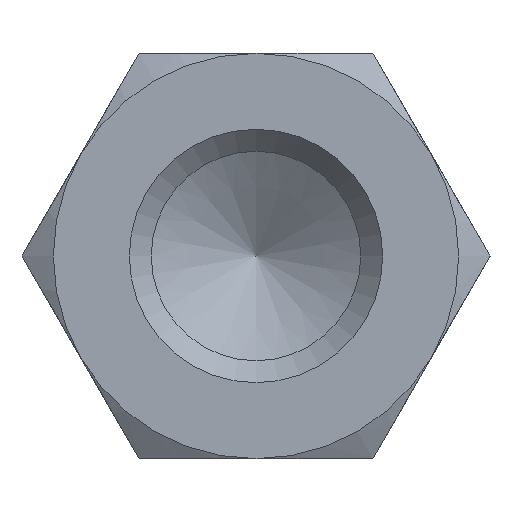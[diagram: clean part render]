
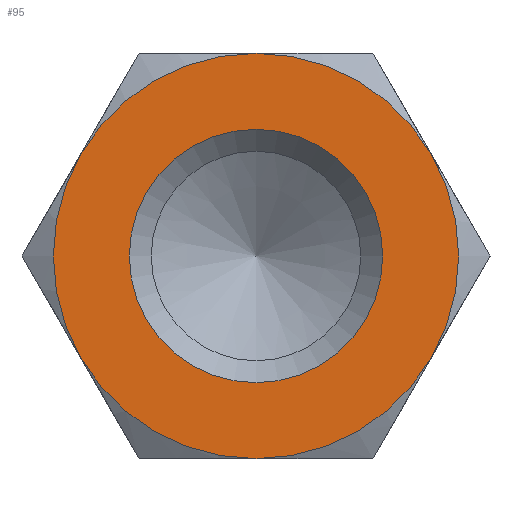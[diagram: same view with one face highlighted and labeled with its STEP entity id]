
A CAD part, left-side view. The second image highlights one B-rep face of the part: STEP entity #95.
In plain terms, the highlighted planar face has unit normal (-1, 0, 0).
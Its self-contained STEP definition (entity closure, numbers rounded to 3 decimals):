
#95 = ADVANCED_FACE( '', ( #147, #148 ), #149, .F. );
#147 = FACE_OUTER_BOUND( '', #206, .T. );
#148 = FACE_BOUND( '', #207, .T. );
#149 = PLANE( '', #208 );
#206 = EDGE_LOOP( '', ( #356, #357, #358, #359, #360, #361 ) );
#207 = EDGE_LOOP( '', ( #362 ) );
#208 = AXIS2_PLACEMENT_3D( '', #363, #364, #365 );
#356 = ORIENTED_EDGE( '', *, *, #440, .F. );
#357 = ORIENTED_EDGE( '', *, *, #425, .F. );
#358 = ORIENTED_EDGE( '', *, *, #441, .F. );
#359 = ORIENTED_EDGE( '', *, *, #437, .F. );
#360 = ORIENTED_EDGE( '', *, *, #442, .F. );
#361 = ORIENTED_EDGE( '', *, *, #443, .F. );
#362 = ORIENTED_EDGE( '', *, *, #439, .T. );
#363 = CARTESIAN_POINT( '', ( -50., 0., 0. ) );
#364 = DIRECTION( '', ( 1., 0., 0. ) );
#365 = DIRECTION( '', ( 0., 0., -1. ) );
#425 = EDGE_CURVE( '', #495, #493, #497, .T. );
#437 = EDGE_CURVE( '', #447, #506, #513, .T. );
#439 = EDGE_CURVE( '', #516, #516, #517, .T. );
#440 = EDGE_CURVE( '', #493, #486, #518, .T. );
#441 = EDGE_CURVE( '', #506, #495, #519, .T. );
#442 = EDGE_CURVE( '', #481, #447, #520, .T. );
#443 = EDGE_CURVE( '', #486, #481, #521, .T. );
#447 = VERTEX_POINT( '', #525 );
#481 = VERTEX_POINT( '', #595 );
#486 = VERTEX_POINT( '', #611 );
#493 = VERTEX_POINT( '', #632 );
#495 = VERTEX_POINT( '', #637 );
#497 = CIRCLE( '', #644, 4. );
#506 = VERTEX_POINT( '', #670 );
#513 = CIRCLE( '', #701, 4. );
#516 = VERTEX_POINT( '', #704 );
#517 = CIRCLE( '', #705, 2.5 );
#518 = CIRCLE( '', #706, 4. );
#519 = CIRCLE( '', #707, 4. );
#520 = CIRCLE( '', #708, 4. );
#521 = CIRCLE( '', #709, 4. );
#525 = CARTESIAN_POINT( '', ( -50., -3.464, 2. ) );
#595 = CARTESIAN_POINT( '', ( -50., 0., 4. ) );
#611 = CARTESIAN_POINT( '', ( -50., 3.464, 2. ) );
#632 = CARTESIAN_POINT( '', ( -50., 3.464, -2. ) );
#637 = CARTESIAN_POINT( '', ( -50., 0., -4. ) );
#644 = AXIS2_PLACEMENT_3D( '', #744, #745, #746 );
#670 = CARTESIAN_POINT( '', ( -50., -3.464, -2. ) );
#701 = AXIS2_PLACEMENT_3D( '', #749, #750, #751 );
#704 = CARTESIAN_POINT( '', ( -50., 0., -2.5 ) );
#705 = AXIS2_PLACEMENT_3D( '', #755, #756, #757 );
#706 = AXIS2_PLACEMENT_3D( '', #758, #759, #760 );
#707 = AXIS2_PLACEMENT_3D( '', #761, #762, #763 );
#708 = AXIS2_PLACEMENT_3D( '', #764, #765, #766 );
#709 = AXIS2_PLACEMENT_3D( '', #767, #768, #769 );
#744 = CARTESIAN_POINT( '', ( -50., 0., 0. ) );
#745 = DIRECTION( '', ( 1., 0., 0. ) );
#746 = DIRECTION( '', ( 0., 0., -1. ) );
#749 = CARTESIAN_POINT( '', ( -50., 0., 0. ) );
#750 = DIRECTION( '', ( 1., 0., 0. ) );
#751 = DIRECTION( '', ( 0., 0., -1. ) );
#755 = CARTESIAN_POINT( '', ( -50., 0., 0. ) );
#756 = DIRECTION( '', ( 1., 0., 0. ) );
#757 = DIRECTION( '', ( 0., 0., -1. ) );
#758 = CARTESIAN_POINT( '', ( -50., 0., 0. ) );
#759 = DIRECTION( '', ( 1., 0., 0. ) );
#760 = DIRECTION( '', ( 0., 0., -1. ) );
#761 = CARTESIAN_POINT( '', ( -50., 0., 0. ) );
#762 = DIRECTION( '', ( 1., 0., 0. ) );
#763 = DIRECTION( '', ( 0., 0., -1. ) );
#764 = CARTESIAN_POINT( '', ( -50., 0., 0. ) );
#765 = DIRECTION( '', ( 1., 0., 0. ) );
#766 = DIRECTION( '', ( 0., 0., -1. ) );
#767 = CARTESIAN_POINT( '', ( -50., 0., 0. ) );
#768 = DIRECTION( '', ( 1., 0., 0. ) );
#769 = DIRECTION( '', ( 0., 0., -1. ) );
